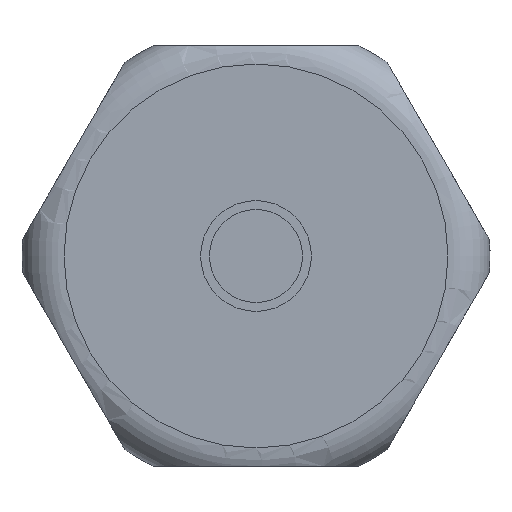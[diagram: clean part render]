
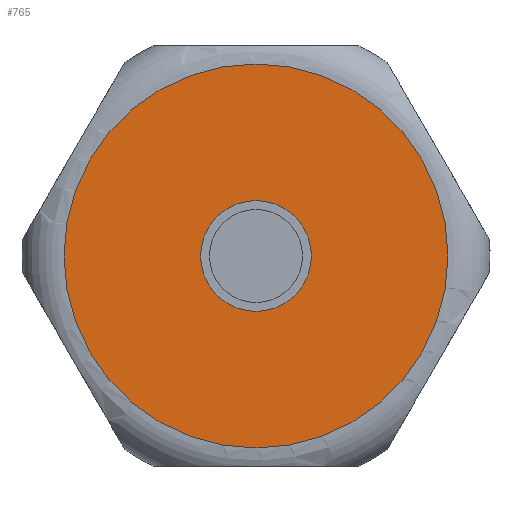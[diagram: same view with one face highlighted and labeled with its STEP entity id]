
A CAD part, left-side view. The second image highlights one B-rep face of the part: STEP entity #765.
In plain terms, the highlighted planar face has unit normal (-1, 0, 0).
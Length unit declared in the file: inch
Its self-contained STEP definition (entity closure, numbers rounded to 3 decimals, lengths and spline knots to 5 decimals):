
#48=FACE_BOUND('',#123,.T.);
#59=PLANE('',#857);
#81=FACE_OUTER_BOUND('',#122,.T.);
#122=EDGE_LOOP('',(#578,#579));
#123=EDGE_LOOP('',(#580,#581));
#212=CIRCLE('',#813,0.14764);
#213=CIRCLE('',#814,0.14764);
#239=CIRCLE('',#858,0.51181);
#240=CIRCLE('',#859,0.51181);
#279=VERTEX_POINT('',#1171);
#280=VERTEX_POINT('',#1172);
#319=VERTEX_POINT('',#1432);
#320=VERTEX_POINT('',#1433);
#358=EDGE_CURVE('',#279,#280,#212,.T.);
#359=EDGE_CURVE('',#280,#279,#213,.T.);
#415=EDGE_CURVE('',#319,#320,#239,.T.);
#416=EDGE_CURVE('',#320,#319,#240,.T.);
#578=ORIENTED_EDGE('',*,*,#415,.F.);
#579=ORIENTED_EDGE('',*,*,#416,.F.);
#580=ORIENTED_EDGE('',*,*,#358,.T.);
#581=ORIENTED_EDGE('',*,*,#359,.T.);
#765=ADVANCED_FACE('',(#81,#48),#59,.T.);
#813=AXIS2_PLACEMENT_3D('',#1173,#929,#930);
#814=AXIS2_PLACEMENT_3D('',#1174,#931,#932);
#857=AXIS2_PLACEMENT_3D('',#1431,#1033,#1034);
#858=AXIS2_PLACEMENT_3D('',#1434,#1035,#1036);
#859=AXIS2_PLACEMENT_3D('',#1435,#1037,#1038);
#929=DIRECTION('center_axis',(1.,0.,0.));
#930=DIRECTION('ref_axis',(0.,-0.866,0.5));
#931=DIRECTION('center_axis',(1.,0.,0.));
#932=DIRECTION('ref_axis',(0.,-0.866,0.5));
#1033=DIRECTION('center_axis',(-1.,0.,0.));
#1034=DIRECTION('ref_axis',(0.,-0.866,0.5));
#1035=DIRECTION('center_axis',(1.,0.,0.));
#1036=DIRECTION('ref_axis',(0.,0.866,-0.5));
#1037=DIRECTION('center_axis',(1.,0.,0.));
#1038=DIRECTION('ref_axis',(0.,0.866,-0.5));
#1171=CARTESIAN_POINT('',(-2.66747,-0.02656,-0.27052));
#1172=CARTESIAN_POINT('',(-2.66747,0.22916,-0.41816));
#1173=CARTESIAN_POINT('Origin',(-2.66747,0.1013,-0.34434));
#1174=CARTESIAN_POINT('Origin',(-2.66747,0.1013,-0.34434));
#1431=CARTESIAN_POINT('Origin',(-2.66747,0.54454,-0.60025));
#1432=CARTESIAN_POINT('',(-2.66747,0.54454,-0.60025));
#1433=CARTESIAN_POINT('',(-2.66747,-0.34194,-0.08844));
#1434=CARTESIAN_POINT('Origin',(-2.66747,0.1013,-0.34434));
#1435=CARTESIAN_POINT('Origin',(-2.66747,0.1013,-0.34434));
